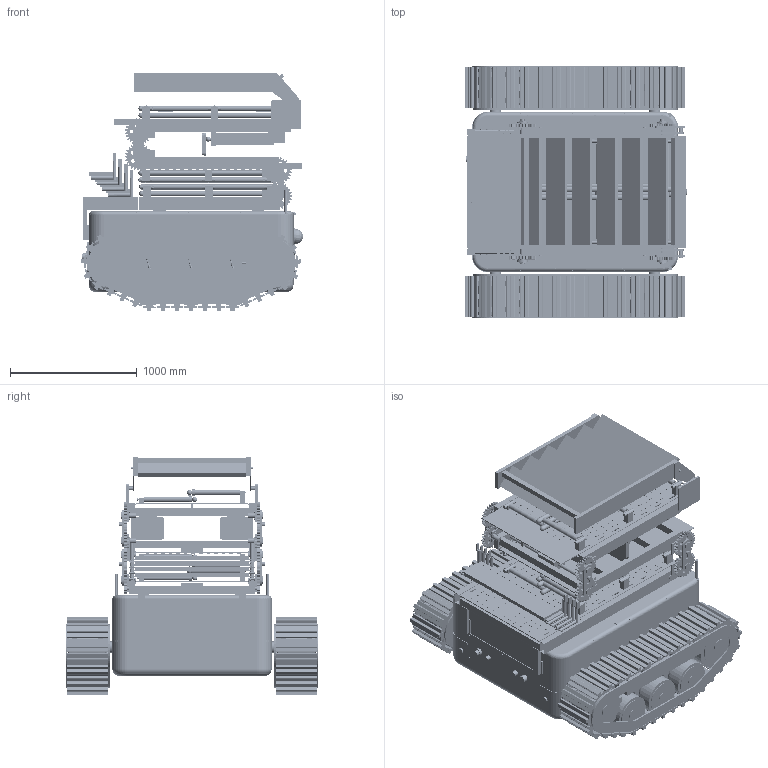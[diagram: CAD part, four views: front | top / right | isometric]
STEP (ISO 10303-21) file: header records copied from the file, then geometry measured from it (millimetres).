
FILE_DESCRIPTION(('Open CASCADE Model'),'2;1');
FILE_NAME('Open CASCADE Shape Model','2026-11-24T20:12:43',('Author'),( 'Open CASCADE'),'Open CASCADE STEP processor 7.9','Open CASCADE 7.9' ,'Unknown');
FILE_SCHEMA(('AUTOMOTIVE_DESIGN { 1 0 10303 214 1 1 1 1 }'));
Length unit declared in the file: centimetre
Products named in the file (676): AKORA_C01_CLOSED_ROBOT; 01_MAIN_BODY; BODY_LOWER; BODY_LOWER_TUB; BODY_JOINT_FLANGE_INNER; BODY_UPPER; BODY_UPPER_TUB; BODY_JOINT_BEAD; COVER_GASKET; COVER_GASKET_EPDM_10x8; PEDESTAL_GROMMET_600_L; PEDESTAL_GROMMET_600_R; PEDESTAL_GROMMET_1380_L; PEDESTAL_GROMMET_1380_R; SERVICE_PANEL_REAR_GASKET; COVER_INTERLOCK; COVER_SEAT_RING_FEMALE; COVER_LOCKS; COVER_QUARTER_TURN_STUD_01; COVER_RECEPTACLE_01; COVER_QUARTER_TURN_STUD_02; COVER_RECEPTACLE_02; COVER_QUARTER_TURN_STUD_03; COVER_RECEPTACLE_03; COVER_QUARTER_TURN_STUD_04; COVER_RECEPTACLE_04; COVER_QUARTER_TURN_STUD_05; COVER_RECEPTACLE_05; COVER_QUARTER_TURN_STUD_06; COVER_RECEPTACLE_06; COVER_QUARTER_TURN_STUD_07; COVER_RECEPTACLE_07; COVER_QUARTER_TURN_STUD_08; COVER_RECEPTACLE_08; COVER_QUARTER_TURN_STUD_09; COVER_RECEPTACLE_09; COVER_QUARTER_TURN_STUD_10; COVER_RECEPTACLE_10; INTERNAL_FRAME; FRAME_RAIL_L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
Assembly tree (743 placements, depth 5):
  AKORA_C01_CLOSED_ROBOT
    01_MAIN_BODY
      BODY_LOWER
        BODY_LOWER_TUB
        BODY_JOINT_FLANGE_INNER
      BODY_UPPER
        BODY_UPPER_TUB
        BODY_JOINT_BEAD
      COVER_GASKET
        COVER_GASKET_EPDM_10x8
        PEDESTAL_GROMMET_600_L
        PEDESTAL_GROMMET_600_R
        PEDESTAL_GROMMET_1380_L
        PEDESTAL_GROMMET_1380_R
        SERVICE_PANEL_REAR_GASKET
      COVER_INTERLOCK
        COVER_SEAT_RING_FEMALE
      COVER_LOCKS
        COVER_QUARTER_TURN_STUD_01
        COVER_RECEPTACLE_01
        COVER_QUARTER_TURN_STUD_02
        COVER_RECEPTACLE_02
        COVER_QUARTER_TURN_STUD_03
        COVER_RECEPTACLE_03
        COVER_QUARTER_TURN_STUD_04
        COVER_RECEPTACLE_04
        COVER_QUARTER_TURN_STUD_05
        COVER_RECEPTACLE_05
        COVER_QUARTER_TURN_STUD_06
        COVER_RECEPTACLE_06
        COVER_QUARTER_TURN_STUD_07
        COVER_RECEPTACLE_07
        COVER_QUARTER_TURN_STUD_08
        COVER_RECEPTACLE_08
        COVER_QUARTER_TURN_STUD_09
        COVER_RECEPTACLE_09
        COVER_QUARTER_TURN_STUD_10
        COVER_RECEPTACLE_10
      INTERNAL_FRAME
        FRAME_RAIL_L
        FRAME_RAIL_R
        FRAME_CROSS_1
        FRAME_CROSS_2
        FRAME_CROSS_3
        FRAME_CROSS_4
        FRAME_CROSS_5
        TRACK_MOTOR_PLATE_L
        TRACK_MOTOR_PLATE_R
      MOUNTING_BRACKETS
        FRAME_WALL_BRACKET_L_400
        FRAME_WALL_BRACKET_L_1300
        FRAME_WALL_BRACKET_R_400
        FRAME_WALL_BRACKET_R_1300
        P1_PEDESTAL_600_L
        P1_PEDESTAL_600_R
        P1_PEDESTAL_1380_L
        P1_PEDESTAL_1380_R
        REAR_LANDING_BRACKET_L
        REAR_LANDING_BRACKET_R
      SERVICE_PANELS
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Bounding box: 1754.89 x 1994 x 1885.68 mm (x, y, z)
Volume: 628183892.7 mm3; surface area: 87864523.7 mm2
Topology: 1494 solids, 1498 shells, 16526 faces, 39817 edges, 26536 vertices
Faces by surface type: plane 14101, cylinder 2385, sphere 22, torus 16, revolution 2
Full cylindrical faces by diameter (mm): 8 x18, 9 x20, 9.2 x10, 10 x150, 10.5 x4, 12 x34, 13 x4, 14 x4, 16 x36, 17 x8, 18 x4, 20 x15, 22 x12, 24 x39, 25 x16, 28 x34, 30 x64, 30.6 x40, 32 x22, 34 x36, 36 x4, 37 x54, 40 x96, 41 x8, 42 x54, 44 x11, 48 x24, 56 x2, 60 x5, 62 x4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
Entity records: 931551 total; most frequent: CARTESIAN_POINT 190398, DIRECTION 134825, LINE 95116, VECTOR 95116, ORIENTED_EDGE 69780, PCURVE 69764, DEFINITIONAL_REPRESENTATION 69764, EDGE_CURVE 34882
